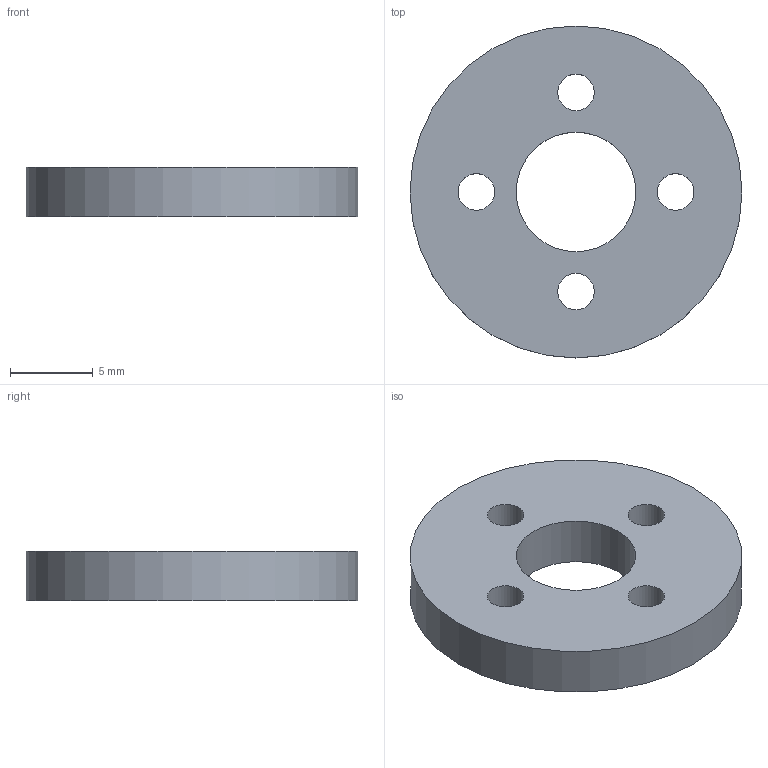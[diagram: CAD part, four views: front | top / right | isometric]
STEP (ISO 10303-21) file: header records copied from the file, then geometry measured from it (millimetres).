
FILE_DESCRIPTION(('Open CASCADE Model'),'2;1');
FILE_NAME('Open CASCADE Shape Model','2026-09-24T17:43:03',('Author'),( 'Open CASCADE'),'Open CASCADE STEP processor 7.8','Open CASCADE 7.8' ,'Unknown');
FILE_SCHEMA(('AUTOMOTIVE_DESIGN { 1 0 10303 214 1 1 1 1 }'));
Length unit declared in the file: millimetre
Products named in the file (1): Open CASCADE STEP translator 7.8 54
Bounding box: 20 x 20 x 3 mm (x, y, z)
Volume: 774.7 mm3; surface area: 855.8 mm2
Topology: 1 solids, 1 shells, 8 faces, 18 edges, 12 vertices
Faces by surface type: cylinder 6, plane 2
Full cylindrical faces by diameter (mm): 2.2 x4, 7.2 x1, 20 x1
Entity records: 498 total; most frequent: DIRECTION 84, CARTESIAN_POINT 75, ORIENTED_EDGE 36, PCURVE 36, DEFINITIONAL_REPRESENTATION 36, LINE 30, VECTOR 30, CIRCLE 24
